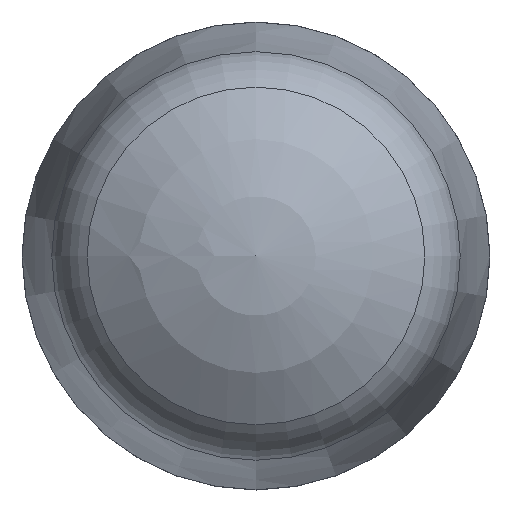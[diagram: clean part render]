
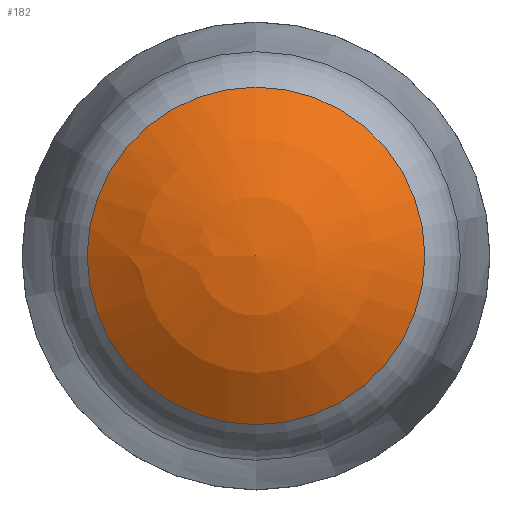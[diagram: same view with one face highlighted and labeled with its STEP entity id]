
A CAD part, front view. The second image highlights one B-rep face of the part: STEP entity #182.
In plain terms, the highlighted spherical face has radius 12 mm.
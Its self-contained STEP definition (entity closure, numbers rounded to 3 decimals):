
#182 = ADVANCED_FACE( '', ( #217, #218 ), #219, .T. );
#217 = FACE_BOUND( '', #293, .T. );
#218 = FACE_OUTER_BOUND( '', #294, .T. );
#219 = SPHERICAL_SURFACE( '', #295, 12. );
#293 = VERTEX_LOOP( '', #370 );
#294 = EDGE_LOOP( '', ( #371 ) );
#295 = AXIS2_PLACEMENT_3D( '', #372, #373, #374 );
#370 = VERTEX_POINT( '', #568 );
#371 = ORIENTED_EDGE( '', *, *, #567, .T. );
#372 = CARTESIAN_POINT( '', ( 0., 12., 0. ) );
#373 = DIRECTION( '', ( 0., -1., 0. ) );
#374 = DIRECTION( '', ( -1., 0., 0. ) );
#567 = EDGE_CURVE( '', #623, #623, #624, .T. );
#568 = CARTESIAN_POINT( '', ( 0., 0., 0. ) );
#623 = VERTEX_POINT( '', #711 );
#624 = CIRCLE( '', #712, 7.149 );
#711 = CARTESIAN_POINT( '', ( 0., 2.362, -7.149 ) );
#712 = AXIS2_PLACEMENT_3D( '', #942, #943, #944 );
#942 = CARTESIAN_POINT( '', ( 0., 2.362, 0. ) );
#943 = DIRECTION( '', ( 0., -1., 0. ) );
#944 = DIRECTION( '', ( 0., 0., -1. ) );
